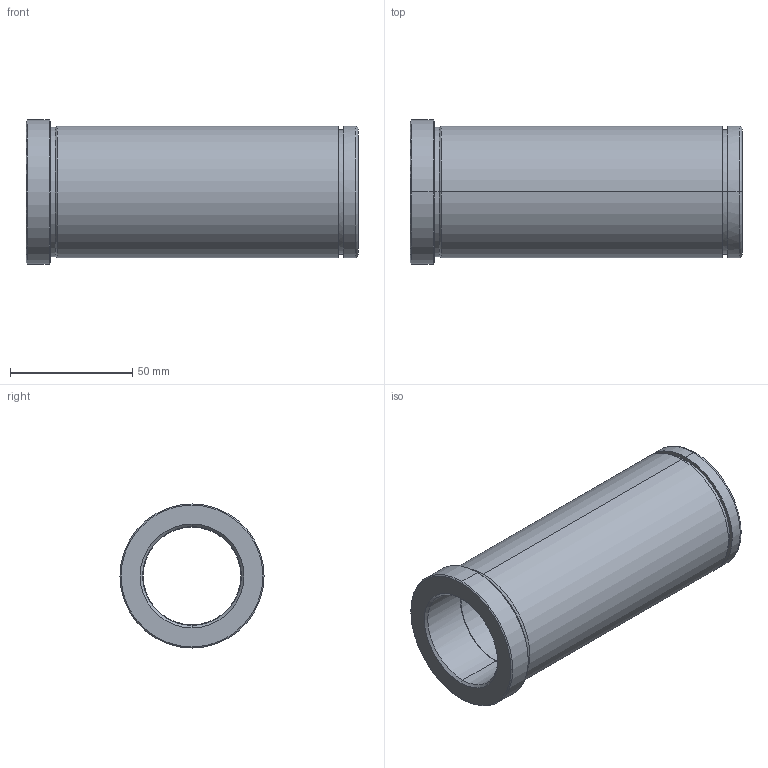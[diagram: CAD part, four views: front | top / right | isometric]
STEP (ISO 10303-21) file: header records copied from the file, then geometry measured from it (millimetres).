
FILE_DESCRIPTION(('CATIA V5 STEP Exchange'),'2;1');
FILE_NAME('C:\Users\Utente\Desktop\IO LAVORO\3D X SITO CF\X SITO\PLASTICA\553\553-40X136.stp','2021-06-03T18:24:37+00:00',('none'),('none'),'CATIA Version 5 Release 20 GA (IN-10)','CATIA V5 STEP AP203','none');
FILE_SCHEMA(('CONFIG_CONTROL_DESIGN'));
Length unit declared in the file: millimetre
Products named in the file (1): 553-40X136
Bounding box: 136 x 59 x 59 mm (x, y, z)
Volume: 143299.8 mm3; surface area: 43476.2 mm2
Topology: 1 solids, 1 shells, 32 faces, 102 edges, 76 vertices
Faces by surface type: cylinder 14, cone 8, plane 6, torus 4
Entity records: 1334 total; most frequent: CARTESIAN_POINT 389, ORIENTED_EDGE 204, DIRECTION 152, EDGE_CURVE 102, AXIS2_PLACEMENT_3D 99, VERTEX_POINT 76, CIRCLE 66, EDGE_LOOP 38
